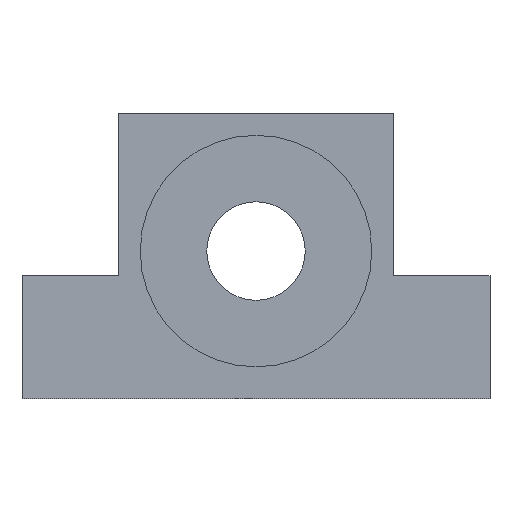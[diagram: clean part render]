
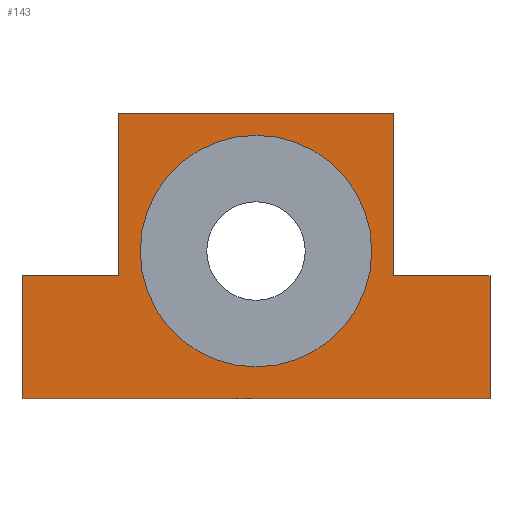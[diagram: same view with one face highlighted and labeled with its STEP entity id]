
A CAD part, left-side view. The second image highlights one B-rep face of the part: STEP entity #143.
In plain terms, the highlighted planar face has unit normal (-1, 0, 0).
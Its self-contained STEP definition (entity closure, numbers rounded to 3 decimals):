
#66=LINE('',#501,#90);
#67=LINE('',#504,#91);
#68=LINE('',#506,#92);
#69=LINE('',#508,#93);
#70=LINE('',#510,#94);
#71=LINE('',#512,#95);
#72=LINE('',#514,#96);
#73=LINE('',#516,#97);
#90=VECTOR('',#415,1.);
#91=VECTOR('',#416,1.);
#92=VECTOR('',#417,1.);
#93=VECTOR('',#418,1.);
#94=VECTOR('',#419,1.);
#95=VECTOR('',#420,1.);
#96=VECTOR('',#421,1.);
#97=VECTOR('',#422,1.);
#129=PLANE('',#365);
#143=ADVANCED_FACE('',(#170,#171),#129,.F.);
#170=FACE_BOUND('',#195,.T.);
#171=FACE_BOUND('',#196,.T.);
#195=EDGE_LOOP('',(#232));
#196=EDGE_LOOP('',(#233,#234,#235,#236,#237,#238,#239,#240));
#232=ORIENTED_EDGE('',*,*,#322,.T.);
#233=ORIENTED_EDGE('',*,*,#323,.F.);
#234=ORIENTED_EDGE('',*,*,#324,.F.);
#235=ORIENTED_EDGE('',*,*,#325,.F.);
#236=ORIENTED_EDGE('',*,*,#326,.F.);
#237=ORIENTED_EDGE('',*,*,#327,.F.);
#238=ORIENTED_EDGE('',*,*,#328,.F.);
#239=ORIENTED_EDGE('',*,*,#329,.F.);
#240=ORIENTED_EDGE('',*,*,#330,.F.);
#296=VERTEX_POINT('',#500);
#297=VERTEX_POINT('',#502);
#298=VERTEX_POINT('',#503);
#299=VERTEX_POINT('',#505);
#300=VERTEX_POINT('',#507);
#301=VERTEX_POINT('',#509);
#302=VERTEX_POINT('',#511);
#303=VERTEX_POINT('',#513);
#304=VERTEX_POINT('',#515);
#322=EDGE_CURVE('GENERATED CIRCLE',#296,#296,#348,.T.);
#323=EDGE_CURVE('LINE',#297,#298,#66,.T.);
#324=EDGE_CURVE('LINE',#299,#297,#67,.T.);
#325=EDGE_CURVE('LINE',#300,#299,#68,.T.);
#326=EDGE_CURVE('LINE',#301,#300,#69,.T.);
#327=EDGE_CURVE('LINE',#302,#301,#70,.T.);
#328=EDGE_CURVE('LINE',#303,#302,#71,.T.);
#329=EDGE_CURVE('LINE',#304,#303,#72,.T.);
#330=EDGE_CURVE('LINE',#298,#304,#73,.T.);
#348=CIRCLE('',#364,23.5);
#364=AXIS2_PLACEMENT_3D('',#499,#413,#414);
#365=AXIS2_PLACEMENT_3D('',#517,#423,#424);
#413=DIRECTION('',(1.,0.,0.));
#414=DIRECTION('',(0.,0.,-1.));
#415=DIRECTION('',(0.,-1.,0.));
#416=DIRECTION('',(0.,0.,-1.));
#417=DIRECTION('',(0.,-1.,0.));
#418=DIRECTION('',(0.,0.,1.));
#419=DIRECTION('',(0.,-1.,0.));
#420=DIRECTION('',(0.,0.,1.));
#421=DIRECTION('',(0.,1.,0.));
#422=DIRECTION('',(0.,0.,-1.));
#423=DIRECTION('',(1.,0.,0.));
#424=DIRECTION('',(0.,-1.,0.));
#499=CARTESIAN_POINT('',(-13.,0.,30.));
#500=CARTESIAN_POINT('',(-13.,0.,6.5));
#501=CARTESIAN_POINT('',(-13.,28.,25.));
#502=CARTESIAN_POINT('',(-13.,-28.,25.));
#503=CARTESIAN_POINT('',(-13.,-47.5,25.));
#504=CARTESIAN_POINT('',(-13.,-28.,44.));
#505=CARTESIAN_POINT('',(-13.,-28.,58.));
#506=CARTESIAN_POINT('',(-13.,0.,58.));
#507=CARTESIAN_POINT('',(-13.,28.,58.));
#508=CARTESIAN_POINT('',(-13.,28.,44.));
#509=CARTESIAN_POINT('',(-13.,28.,25.));
#510=CARTESIAN_POINT('',(-13.,28.,25.));
#511=CARTESIAN_POINT('',(-13.,47.5,25.));
#512=CARTESIAN_POINT('',(-13.,47.5,15.));
#513=CARTESIAN_POINT('',(-13.,47.5,0.));
#514=CARTESIAN_POINT('',(-13.,0.,0.));
#515=CARTESIAN_POINT('',(-13.,-47.5,0.));
#516=CARTESIAN_POINT('',(-13.,-47.5,15.));
#517=CARTESIAN_POINT('',(-13.,0.,0.));
